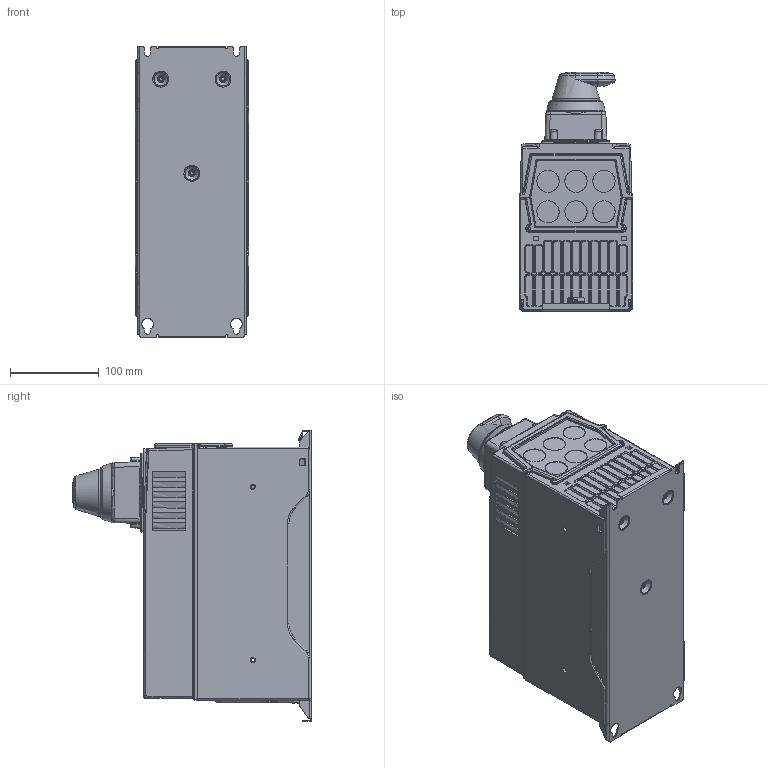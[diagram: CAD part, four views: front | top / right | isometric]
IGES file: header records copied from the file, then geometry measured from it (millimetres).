
Global section: file name: C:\temp\3D mechanics (extra.vacon)\Agileen\MR4\MR4_Simplified_Model_Main_Switch_igs.igs; native system: NX V6.0; preprocessor: SIEMENS UGS NX 6.0; date: 20121211.154450; units: millimetre
Bounding box: 128 x 269.15 x 327.5 mm (x, y, z)
Surface area: 652164.9 mm2 (no closed solid volume)
Topology: 0 solids, 0 shells, 2115 faces, 12972 edges, 12870 vertices
Faces by surface type: bspline 2115
